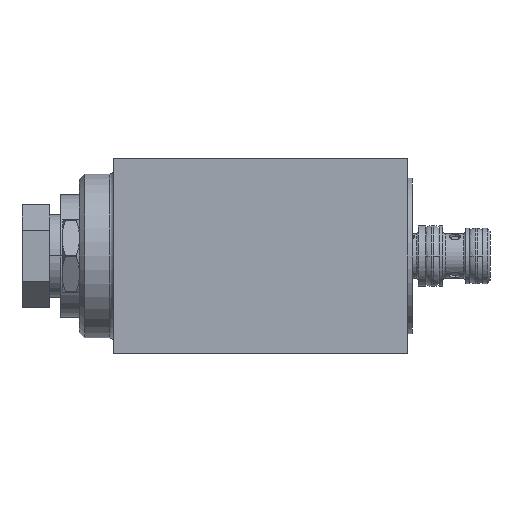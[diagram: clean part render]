
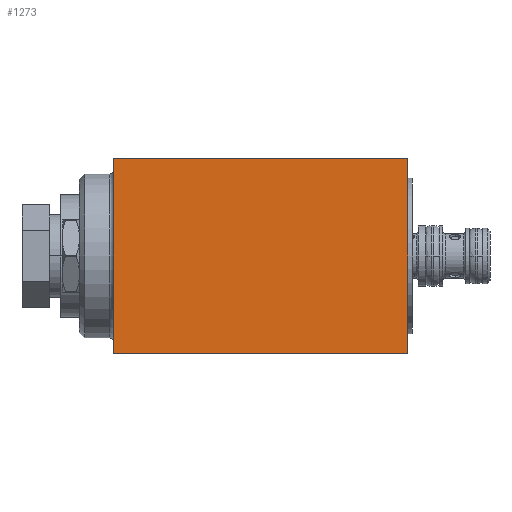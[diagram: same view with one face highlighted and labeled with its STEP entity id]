
A CAD part, front view. The second image highlights one B-rep face of the part: STEP entity #1273.
In plain terms, the highlighted planar face has unit normal (0, -1, 0).
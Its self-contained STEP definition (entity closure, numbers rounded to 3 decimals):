
#139 = FACE_OUTER_BOUND ( 'NONE', #22969, .T. ) ;
#144 = ORIENTED_EDGE ( 'NONE', *, *, #13315, .F. ) ;
#1255 = DIRECTION ( 'NONE',  ( -1., 0., 0. ) ) ;
#1273 = ADVANCED_FACE ( 'NONE', ( #139 ), #7531, .F. ) ;
#2532 = VECTOR ( 'NONE', #1255, 1000. ) ;
#2945 = CARTESIAN_POINT ( 'NONE',  ( 9.5, -17.5, 17.5 ) ) ;
#3705 = EDGE_CURVE ( 'NONE', #10120, #4344, #14667, .T. ) ;
#3720 = DIRECTION ( 'NONE',  ( -1., 0., 0. ) ) ;
#4344 = VERTEX_POINT ( 'NONE', #17787 ) ;
#4562 = DIRECTION ( 'NONE',  ( 0., 0., -1. ) ) ;
#5635 = DIRECTION ( 'NONE',  ( 0., 0., -1. ) ) ;
#5863 = LINE ( 'NONE', #12925, #22533 ) ;
#6785 = CARTESIAN_POINT ( 'NONE',  ( -43.5, -17.5, 17.5 ) ) ;
#6825 = AXIS2_PLACEMENT_3D ( 'NONE', #7892, #22511, #14204 ) ;
#7139 = LINE ( 'NONE', #16049, #2532 ) ;
#7531 = PLANE ( 'NONE',  #6825 ) ;
#7892 = CARTESIAN_POINT ( 'NONE',  ( 9.5, -17.5, 17.5 ) ) ;
#9054 = CARTESIAN_POINT ( 'NONE',  ( 9.5, -17.5, -17.5 ) ) ;
#10120 = VERTEX_POINT ( 'NONE', #6785 ) ;
#11372 = ORIENTED_EDGE ( 'NONE', *, *, #3705, .T. ) ;
#12925 = CARTESIAN_POINT ( 'NONE',  ( 9.5, -17.5, 17.5 ) ) ;
#13289 = CARTESIAN_POINT ( 'NONE',  ( 9.5, -17.5, 17.5 ) ) ;
#13315 = EDGE_CURVE ( 'NONE', #13474, #4344, #7139, .T. ) ;
#13474 = VERTEX_POINT ( 'NONE', #9054 ) ;
#13524 = VECTOR ( 'NONE', #5635, 1000. ) ;
#14204 = DIRECTION ( 'NONE',  ( 0., 0., 1. ) ) ;
#14667 = LINE ( 'NONE', #18968, #18735 ) ;
#15380 = ORIENTED_EDGE ( 'NONE', *, *, #19149, .F. ) ;
#15522 = EDGE_CURVE ( 'NONE', #18929, #10120, #5863, .T. ) ;
#16049 = CARTESIAN_POINT ( 'NONE',  ( 9.5, -17.5, -17.5 ) ) ;
#17787 = CARTESIAN_POINT ( 'NONE',  ( -43.5, -17.5, -17.5 ) ) ;
#18735 = VECTOR ( 'NONE', #4562, 1000. ) ;
#18929 = VERTEX_POINT ( 'NONE', #13289 ) ;
#18968 = CARTESIAN_POINT ( 'NONE',  ( -43.5, -17.5, 17.5 ) ) ;
#19149 = EDGE_CURVE ( 'NONE', #18929, #13474, #24033, .T. ) ;
#22511 = DIRECTION ( 'NONE',  ( 0., 1., 0. ) ) ;
#22533 = VECTOR ( 'NONE', #3720, 1000. ) ;
#22969 = EDGE_LOOP ( 'NONE', ( #11372, #144, #15380, #24045 ) ) ;
#24033 = LINE ( 'NONE', #2945, #13524 ) ;
#24045 = ORIENTED_EDGE ( 'NONE', *, *, #15522, .T. ) ;
